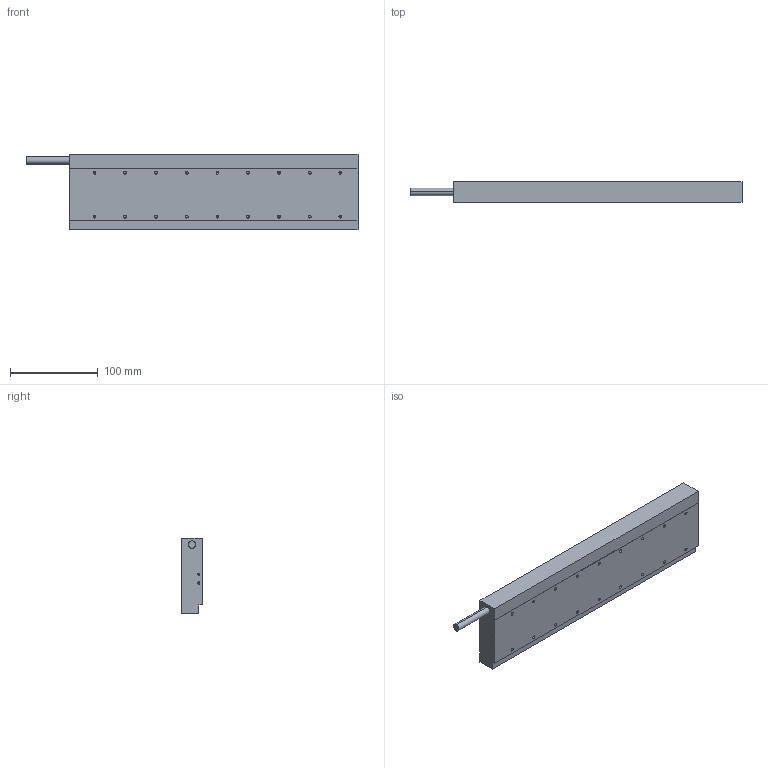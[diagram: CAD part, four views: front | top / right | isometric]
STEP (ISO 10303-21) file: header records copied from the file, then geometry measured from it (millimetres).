
FILE_DESCRIPTION (( 'STEP AP214' ), '1' );
FILE_NAME ('雄赽MK23.STEP', '2025-09-05T08:59:57', ( '' ), ( '' ), 'SwSTEP 2.0', 'SolidWorks 2016', '' );
FILE_SCHEMA (( 'AUTOMOTIVE_DESIGN' ));
Length unit declared in the file: millimetre
Products named in the file (1): 雄赽MK23
Bounding box: 378 x 23.7 x 86 mm (x, y, z)
Volume: 656146.6 mm3; surface area: 78553.1 mm2
Topology: 1 solids, 1 shells, 93 faces, 230 edges, 120 vertices
Faces by surface type: cylinder 42, cone 40, plane 11
Entity records: 2999 total; most frequent: DIRECTION 462, CARTESIAN_POINT 404, ORIENTED_EDGE 380, EDGE_CURVE 190, AXIS2_PLACEMENT_3D 178, VERTEX_POINT 120, EDGE_LOOP 114, LINE 106
